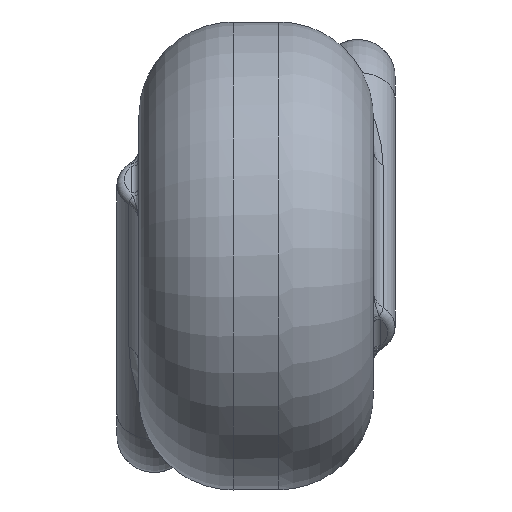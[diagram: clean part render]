
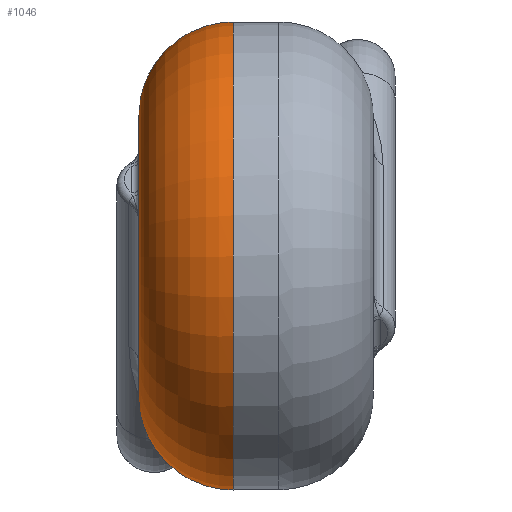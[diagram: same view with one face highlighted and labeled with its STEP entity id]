
A CAD part, left-side view. The second image highlights one B-rep face of the part: STEP entity #1046.
In plain terms, the highlighted toroidal (fillet/blend) face has major radius 3.7 mm and minor radius 2.5 mm.
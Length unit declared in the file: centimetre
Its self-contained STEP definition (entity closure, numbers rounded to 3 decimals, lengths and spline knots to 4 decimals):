
#746=CARTESIAN_POINT('',(0.2399,0.54,-0.2817));
#747=VERTEX_POINT('',#746);
#815=CARTESIAN_POINT('',(0.4211,0.3488,-0.4455));
#816=VERTEX_POINT('',#815);
#824=CARTESIAN_POINT('',(0.4211,0.3488,-0.4455));
#825=CARTESIAN_POINT('',(0.409,0.3599,-0.4532));
#826=CARTESIAN_POINT('',(0.3861,0.3858,-0.4626));
#827=CARTESIAN_POINT('',(0.3486,0.4428,-0.4544));
#828=CARTESIAN_POINT('',(0.3188,0.4973,-0.4091));
#829=CARTESIAN_POINT('',(0.2864,0.5324,-0.34));
#830=CARTESIAN_POINT('',(0.2579,0.54,-0.2988));
#831=CARTESIAN_POINT('',(0.2399,0.54,-0.2817));
#832=B_SPLINE_CURVE_WITH_KNOTS('',3,(#824,#825,#826,#827,#828,#829,#830,#831),.UNSPECIFIED.,.F.,.U.,(4,1,1,1,1,4),(-0.4599,-0.3942,-0.3285,-0.1971,-0.0986,0.0),.UNSPECIFIED.);
#833=EDGE_CURVE('',#816,#747,#832,.T.);
#877=CARTESIAN_POINT('',(0.4993,0.3127,-0.3658));
#878=VERTEX_POINT('',#877);
#886=CARTESIAN_POINT('',(0.4993,0.3127,-0.3658));
#887=CARTESIAN_POINT('',(0.4752,0.3119,-0.3989));
#888=CARTESIAN_POINT('',(0.4466,0.3254,-0.4291));
#889=CARTESIAN_POINT('',(0.4211,0.3488,-0.4455));
#890=B_SPLINE_CURVE_WITH_KNOTS('',3,(#886,#887,#888,#889),.UNSPECIFIED.,.F.,.U.,(4,4),(-0.1391,0.),.UNSPECIFIED.);
#891=EDGE_CURVE('',#878,#816,#890,.T.);
#971=CARTESIAN_POINT('',(0.3682,0.54,-0.0364));
#972=VERTEX_POINT('',#971);
#980=CARTESIAN_POINT('',(0.3682,0.54,-0.0364));
#981=CARTESIAN_POINT('',(0.3837,0.54,-0.0569));
#982=CARTESIAN_POINT('',(0.4171,0.5361,-0.0926));
#983=CARTESIAN_POINT('',(0.4903,0.5059,-0.1397));
#984=CARTESIAN_POINT('',(0.5491,0.442,-0.1774));
#985=CARTESIAN_POINT('',(0.5606,0.3692,-0.24));
#986=CARTESIAN_POINT('',(0.5468,0.3365,-0.2848));
#987=CARTESIAN_POINT('',(0.5251,0.3178,-0.3277));
#988=CARTESIAN_POINT('',(0.511,0.3131,-0.3498));
#989=CARTESIAN_POINT('',(0.4993,0.3127,-0.3658));
#990=B_SPLINE_CURVE_WITH_KNOTS('',3,(#980,#981,#982,#983,#984,#985,#986,#987,#988,#989),.UNSPECIFIED.,.F.,.U.,(4,1,1,1,1,1,1,4),(-1.2245,-1.1351,-1.0458,-0.867,-0.7777,-0.6883,-0.666,-0.599),.UNSPECIFIED.);
#991=EDGE_CURVE('',#972,#878,#990,.T.);
#1018=CARTESIAN_POINT('',(0.0,0.29,0.0));
#1019=DIRECTION('',(0.0,1.0,0.0));
#1020=DIRECTION('',(1.0,0.0,0.0));
#1021=AXIS2_PLACEMENT_3D('',#1018,#1019,#1020);
#1022=TOROIDAL_SURFACE('',#1021,0.37,0.25);
#1023=CARTESIAN_POINT('',(0.62,0.29,0.));
#1024=VERTEX_POINT('',#1023);
#1025=CARTESIAN_POINT('',(0.0,0.29,0.0));
#1026=DIRECTION('',(0.0,1.0,0.0));
#1027=DIRECTION('',(-1.0,0.0,0.0));
#1028=AXIS2_PLACEMENT_3D('',#1025,#1026,#1027);
#1029=CIRCLE('',#1028,0.62);
#1030=EDGE_CURVE('',#1024,#1024,#1029,.T.);
#1031=ORIENTED_EDGE('',*,*,#1030,.T.);
#1032=EDGE_LOOP('',(#1031));
#1033=FACE_OUTER_BOUND('',#1032,.T.);
#1034=ORIENTED_EDGE('',*,*,#991,.F.);
#1035=CARTESIAN_POINT('',(0.0,0.54,0.0));
#1036=DIRECTION('',(0.0,-1.0,0.0));
#1037=DIRECTION('',(-1.0,0.0,0.0));
#1038=AXIS2_PLACEMENT_3D('',#1035,#1036,#1037);
#1039=CIRCLE('',#1038,0.37);
#1040=EDGE_CURVE('',#972,#747,#1039,.T.);
#1041=ORIENTED_EDGE('',*,*,#1040,.T.);
#1042=ORIENTED_EDGE('',*,*,#833,.F.);
#1043=ORIENTED_EDGE('',*,*,#891,.F.);
#1044=EDGE_LOOP('',(#1034,#1041,#1042,#1043));
#1045=FACE_BOUND('',#1044,.T.);
#1046=ADVANCED_FACE('',(#1033,#1045),#1022,.T.);
